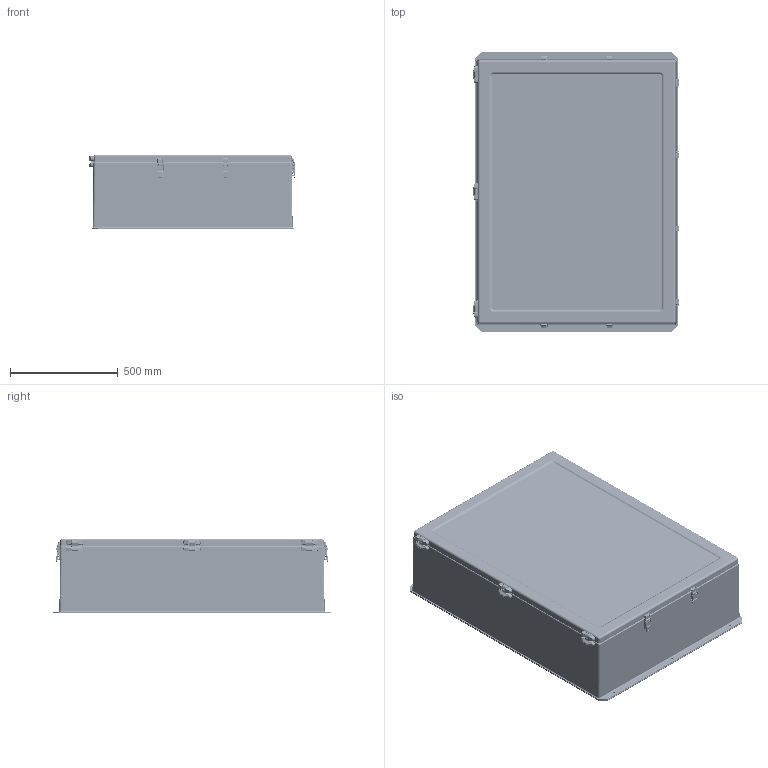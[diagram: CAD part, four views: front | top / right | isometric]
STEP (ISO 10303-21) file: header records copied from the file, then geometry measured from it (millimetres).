
FILE_DESCRIPTION (( 'STEP AP203' ), '1' );
FILE_NAME ('a48h3612gqrlp.STEP', '2012-03-22T15:10:29', ( 'Hoffman User' ), ( 'Hoffman Enclosures' ), 'SwSTEP 2.0', 'SolidWorks 2010', '' );
FILE_SCHEMA (( 'CONFIG_CONTROL_DESIGN' ));
Products named in the file (27): a48h3612gqrlp; 22346016; 87951636; 22178002; 22178001; 22112007_22112003; 89043226; 87949190; 87543466; 87949258; 99416061_FLEX; 24352001; 87759496_87759496 DOOR CLOSED; 22293001; 87955618; 22292001; 87955597; 87955576; 87951276_Closed angled bail; 99411366_93825A140; 87951278_87951278; 87949198_87949198; 87951276_Closed parallel bail; 87951273_87951273; 87951274_87951274; 14241007_14241007; 87949197_87949197
Assembly tree (65 placements, depth 4):
  a48h3612gqrlp
    87951276_Closed angled bail  x5
      14241007_14241007
      87949197_87949197
      87951274_87951274
      87951273_87951273
    87949198_87949198  x8
    87759496_87759496 DOOR CLOSED  x3
      14241007_14241007
      22293001
        87955576  x2
        87955618
      22292001
        87955597
        87955576  x2
    99416061_FLEX
      24352001
    87951278_87951278  x4
    22346016
      89043226
      22178002  x8
        22178001
        22112007_22112003
      87951636
    99411366_93825A140  x4
    87951276_Closed parallel bail  x3
      87949197_87949197
      14241007_14241007
      87951274_87951274
      87951273_87951273
    87949190
      87949258
      87543466
Bounding box: 960.18 x 1298.96 x 346.25 mm (x, y, z)
Volume: 17015566.7 mm3; surface area: 9116851.1 mm2
Topology: 101 solids, 102 shells, 12358 faces, 30153 edges, 17880 vertices
Faces by surface type: cylinder 3515, bspline 3411, plane 2606, torus 1520, cone 786, sphere 520
Entity records: 115531 total; most frequent: CARTESIAN_POINT 50201, ORIENTED_EDGE 13896, DIRECTION 11166, EDGE_CURVE 6948, VERTEX_POINT 4302, AXIS2_PLACEMENT_3D 3886, VECTOR 3394, LINE 3394
